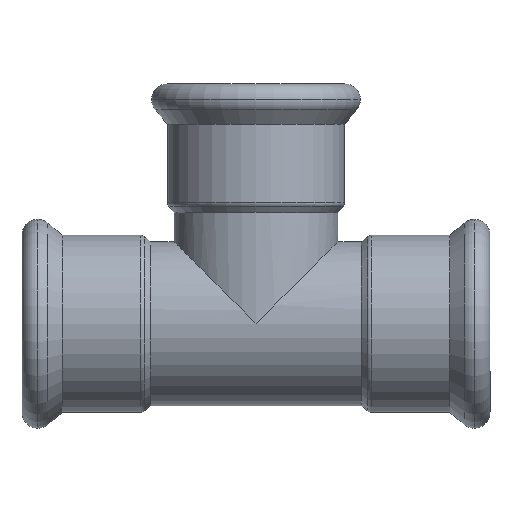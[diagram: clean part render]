
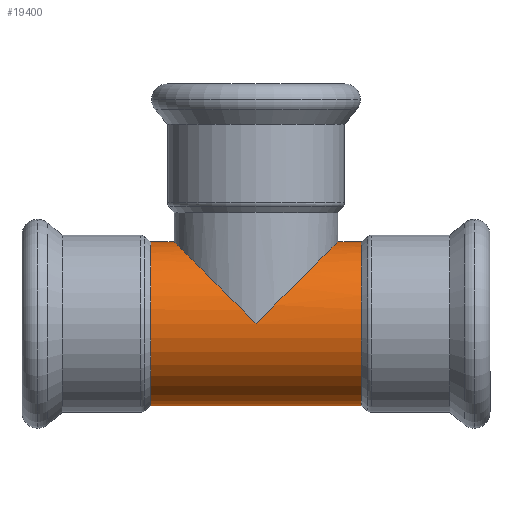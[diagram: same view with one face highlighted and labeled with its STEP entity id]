
A CAD part, top view. The second image highlights one B-rep face of the part: STEP entity #19400.
In plain terms, the highlighted cylindrical face has radius 21 mm (diameter 42 mm), a partial arc.
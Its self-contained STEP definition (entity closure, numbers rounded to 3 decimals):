
#540=CARTESIAN_POINT('',(-29.154,189.631,
0.));
#550=VERTEX_POINT('',#540);
#730=CARTESIAN_POINT('',(-71.154,189.631,0.));
#740=VERTEX_POINT('',#730);
#770=CARTESIAN_POINT('',(-50.154,168.631,0.));
#780=DIRECTION('',(0.707,0.707,0.));
#790=DIRECTION('',(-0.707,0.707,0.));
#800=AXIS2_PLACEMENT_3D('',#770,#780,#790);
#810=ELLIPSE('',#800,29.698,21.);
#860=CARTESIAN_POINT('',(-50.154,168.631,0.));
#870=DIRECTION('',(-0.707,0.707,0.));
#880=DIRECTION('',(0.707,0.707,0.));
#890=AXIS2_PLACEMENT_3D('',#860,#870,#880);
#900=ELLIPSE('',#890,29.698,21.);
#18910=CARTESIAN_POINT('',(-77.154,168.631,0.));
#18920=DIRECTION('',(-1.,0.,0.));
#18930=DIRECTION('',(0.,1.,0.));
#18940=AXIS2_PLACEMENT_3D('',#18910,#18920,#18930);
#18950=CYLINDRICAL_SURFACE('',#18940,21.);
#18960=CARTESIAN_POINT('',(-77.154,147.631,
0.));
#18970=DIRECTION('',(-1.,0.,0.));
#18980=VECTOR('',#18970,1.);
#18990=LINE('',#18960,#18980);
#19000=CARTESIAN_POINT('',(-23.154,147.631,
0.));
#19010=VERTEX_POINT('',#19000);
#19020=CARTESIAN_POINT('',(-77.154,147.631,
0.));
#19030=VERTEX_POINT('',#19020);
#19040=EDGE_CURVE('',#19010,#19030,#18990,.T.);
#19050=ORIENTED_EDGE('',*,*,#19040,.F.);
#19060=CARTESIAN_POINT('',(-77.154,168.631,0.));
#19070=DIRECTION('',(-1.,0.,0.));
#19080=DIRECTION('',(0.,1.,0.));
#19090=AXIS2_PLACEMENT_3D('',#19060,#19070,#19080);
#19100=CIRCLE('',#19090,21.);
#19110=CARTESIAN_POINT('',(-77.154,189.631,0.));
#19120=VERTEX_POINT('',#19110);
#19130=EDGE_CURVE('',#19030,#19120,#19100,.T.);
#19140=ORIENTED_EDGE('',*,*,#19130,.F.);
#19150=CARTESIAN_POINT('',(-77.154,189.631,0.));
#19160=DIRECTION('',(-1.,0.,0.));
#19170=VECTOR('',#19160,1.);
#19180=LINE('',#19150,#19170);
#19190=EDGE_CURVE('',#740,#19120,#19180,.T.);
#19200=ORIENTED_EDGE('',*,*,#19190,.T.);
#19210=CARTESIAN_POINT('',(-50.154,168.631,21.));
#19220=VERTEX_POINT('',#19210);
#19230=EDGE_CURVE('',#740,#19220,#810,.T.);
#19240=ORIENTED_EDGE('',*,*,#19230,.F.);
#19250=EDGE_CURVE('',#19220,#550,#900,.T.);
#19260=ORIENTED_EDGE('',*,*,#19250,.F.);
#19270=CARTESIAN_POINT('',(-23.154,189.631,0.));
#19280=VERTEX_POINT('',#19270);
#19290=EDGE_CURVE('',#19280,#550,#19180,.T.);
#19300=ORIENTED_EDGE('',*,*,#19290,.T.);
#19310=CARTESIAN_POINT('',(-23.154,168.631,0.));
#19320=DIRECTION('',(-1.,0.,0.));
#19330=DIRECTION('',(0.,1.,0.));
#19340=AXIS2_PLACEMENT_3D('',#19310,#19320,#19330);
#19350=CIRCLE('',#19340,21.);
#19360=EDGE_CURVE('',#19010,#19280,#19350,.T.);
#19370=ORIENTED_EDGE('',*,*,#19360,.T.);
#19380=EDGE_LOOP('',(#19370,#19300,#19260,#19240,#19200,#19140,#19050));
#19390=FACE_OUTER_BOUND('',#19380,.T.);
#19400=ADVANCED_FACE('',(#19390),#18950,.T.);
